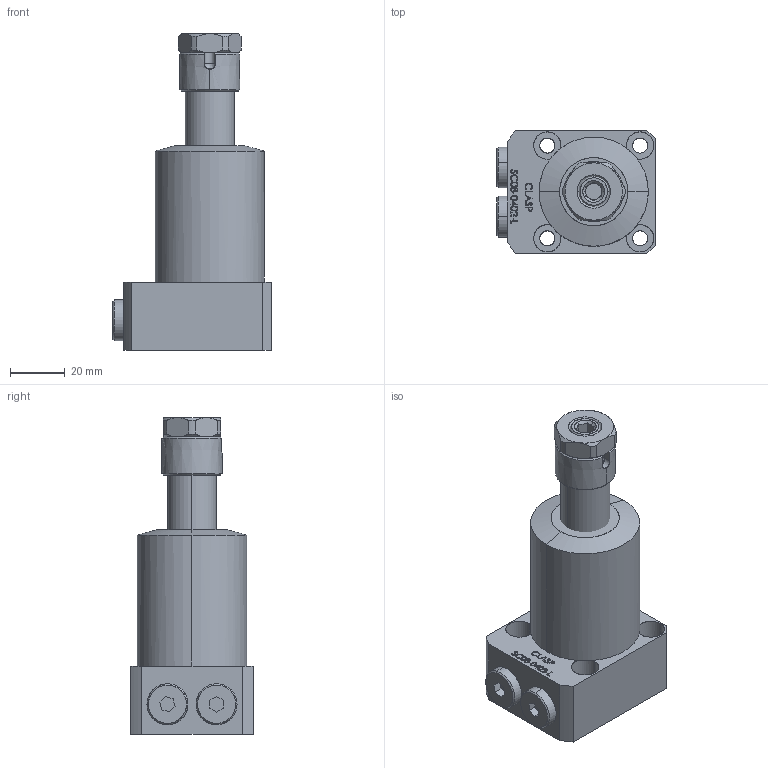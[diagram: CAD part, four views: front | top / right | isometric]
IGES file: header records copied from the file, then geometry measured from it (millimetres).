
Start section: SolidWorks IGES file using analytic representation for surfaces
Global section: file name: D:\karuppas\Clasp\3D model\SWING CYLINDER\bottom mounting swing cylinder\SC08-0402-L\SC08-0402-L.IGS; native system: SolidWorks 2017; preprocessor: SolidWorks 2017; author: pc; date: 220708.224705; units: millimetre
Bounding box: 58 x 45 x 116 mm (x, y, z)
Surface area: 28437.3 mm2 (no closed solid volume)
Topology: 0 solids, 0 shells, 374 faces, 5626 edges, 5625 vertices
Faces by surface type: bspline 267, revolution 107
